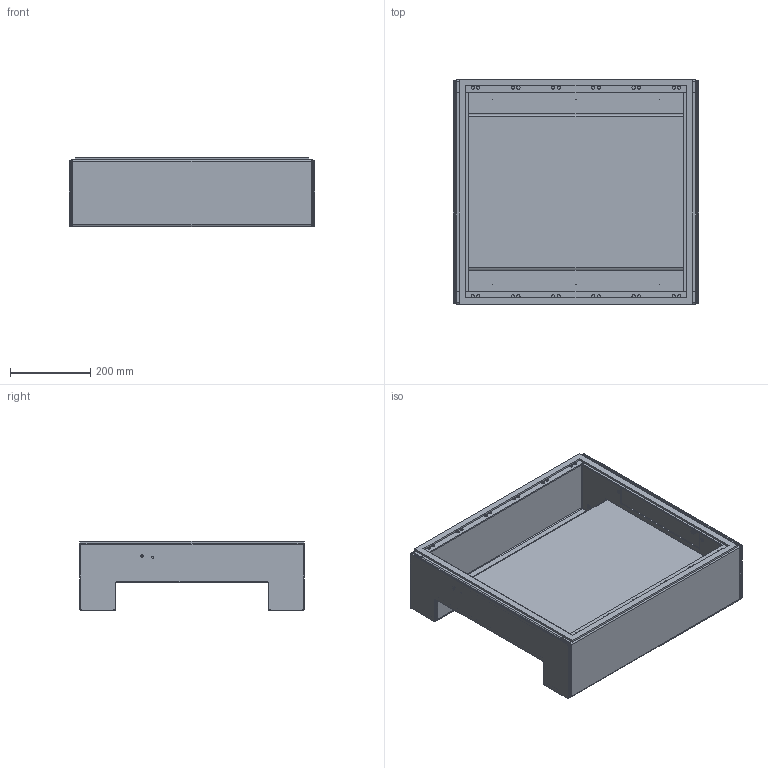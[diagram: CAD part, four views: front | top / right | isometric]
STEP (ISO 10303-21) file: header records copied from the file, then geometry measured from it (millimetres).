
FILE_DESCRIPTION (( 'STEP AP203' ), '1' );
FILE_NAME ('14152.step', '2013-03-29T08:20:30', ( '' ), ( '' ), 'SwSTEP 2.0', 'SolidWorks 2010', '' );
FILE_SCHEMA (( 'CONFIG_CONTROL_DESIGN' ));
Length unit declared in the file: inch
Products named in the file (13): 14152; 87781716; 87781698; 87781738; 87781734; 99411248; 87781908; 89062813; 60100041_60100041; 87931527_87931527; 87931368_SLEEVE; 89062906; 89062988
Assembly tree (18 placements, depth 4):
  14152
    87781716
      87781738  x2
        87781734
        99411248
      87781698
    89062906  x2
    89062988
    87781908  x2
      60100041_60100041
        87931527_87931527
        87931368_SLEEVE
      89062813
Bounding box: 611.02 x 559 x 171.86 mm (x, y, z)
Volume: 3025833.2 mm3; surface area: 1976925 mm2
Topology: 20 solids, 20 shells, 612 faces, 1472 edges, 946 vertices
Faces by surface type: plane 304, cylinder 220, sphere 64, cone 24
Entity records: 10976 total; most frequent: DIRECTION 1725, CARTESIAN_POINT 1588, ORIENTED_EDGE 1526, EDGE_CURVE 763, AXIS2_PLACEMENT_3D 621, VERTEX_POINT 484, LINE 483, VECTOR 483
